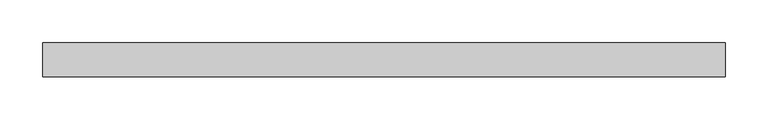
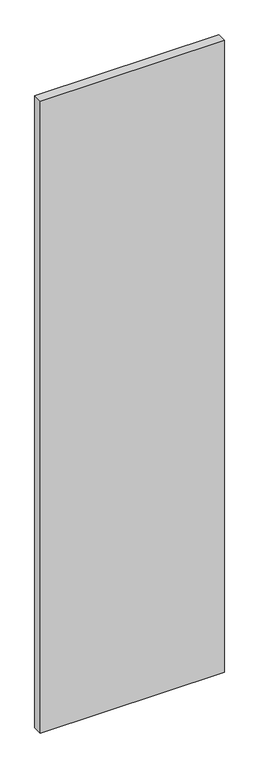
"""IFC4 building model written with IfcOpenShell, lengths in millimetres: plate geometry, Lod 200 Regolare 800 Vertical : Azuro."""

from ifc_helpers import new_model, si_unit, origin, origin_with_axes, place, context, project, spatial, polyline, outline, extrude, source, transform, mapped, element, save


def plate_4cf631f9(model_context):
    return source(origin(), model_context, "Body", "SweptSolid", [
        extrude(outline(polyline([(400.0, -40.0), (-400.0, -40.0), (-400.0, 0.0), (400.0, 0.0), (400.0, -40.0)])), origin_with_axes(), (0.0, 0.0, 1.0), 2900.0),
    ])


if __name__ == "__main__":
    model = new_model("IFC4")
    model_context = context("Model", 3, world=origin())
    ifc_project = project(units=[si_unit("LENGTHUNIT", "METRE", prefix="MILLI")], contexts=[model_context])
    site = spatial("IfcSite", under=ifc_project)
    building = spatial("IfcBuilding", under=site)
    placement = place(None, origin())
    plate_shape = plate_4cf631f9(model_context)
    element("IfcPlate", 1, ObjectType="Lod 200 Regolare 800 Vertical : Azuro", at=placement, inside=building, context=model_context, shape_type="MappedRepresentation", body=[
        mapped(plate_shape, transform((0.0, 0.0, 0.0), x_axis=(1.0, 0.0, 0.0), y_axis=(0.0, 1.0, 0.0), z_axis=(0.0, 0.0, 1.0))),
    ])
    save(model, "model.ifc")
